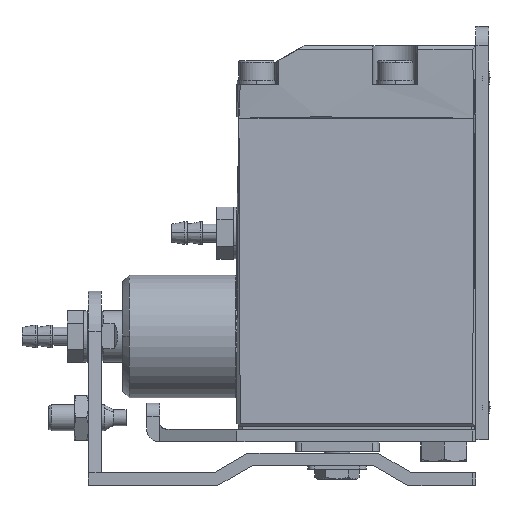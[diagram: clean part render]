
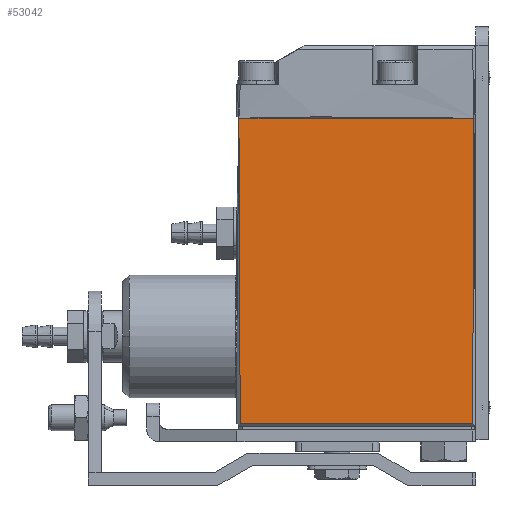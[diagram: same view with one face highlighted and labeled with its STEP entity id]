
A CAD part, left-side view. The second image highlights one B-rep face of the part: STEP entity #53042.
In plain terms, the highlighted planar face has unit normal (-1, 0, 0).
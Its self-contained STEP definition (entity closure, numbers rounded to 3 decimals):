
#1415 = FACE_OUTER_BOUND ( 'NONE', #18026, .T. ) ;
#5184 = DIRECTION ( 'NONE',  ( 0., 0., -1. ) ) ;
#9457 = DIRECTION ( 'NONE',  ( -1., 0., 0. ) ) ;
#10090 = CARTESIAN_POINT ( 'NONE',  ( 0., 18.5, 47.5 ) ) ;
#11684 = AXIS2_PLACEMENT_3D ( 'NONE', #34744, #9457, #38925 ) ;
#13582 = CARTESIAN_POINT ( 'NONE',  ( 0., 36.5, 24. ) ) ;
#16252 = VERTEX_POINT ( 'NONE', #16300 ) ;
#16300 = CARTESIAN_POINT ( 'NONE',  ( 0., 36.5, 0.5 ) ) ;
#18026 = EDGE_LOOP ( 'NONE', ( #54207, #21034, #33627, #19812 ) ) ;
#19812 = ORIENTED_EDGE ( 'NONE', *, *, #44784, .F. ) ;
#20454 = VECTOR ( 'NONE', #43677, 1000. ) ;
#20725 = CARTESIAN_POINT ( 'NONE',  ( 0.255, 36.7, 47.8 ) ) ;
#21034 = ORIENTED_EDGE ( 'NONE', *, *, #27695, .T. ) ;
#21276 = EDGE_CURVE ( 'NONE', #47948, #48793, #29797, .T. ) ;
#21534 = CARTESIAN_POINT ( 'NONE',  ( 0., 0.5, 0.5 ) ) ;
#22415 = VERTEX_POINT ( 'NONE', #20725 ) ;
#22512 = CARTESIAN_POINT ( 'NONE',  ( 0., 0.5, 24. ) ) ;
#27695 = EDGE_CURVE ( 'NONE', #48793, #22415, #42633, .T. ) ;
#29797 = LINE ( 'NONE', #22512, #39581 ) ;
#30238 = LINE ( 'NONE', #45443, #51080 ) ;
#33627 = ORIENTED_EDGE ( 'NONE', *, *, #41757, .T. ) ;
#34744 = CARTESIAN_POINT ( 'NONE',  ( 0., -3.1, -4.2 ) ) ;
#38925 = DIRECTION ( 'NONE',  ( 0., 0., 1. ) ) ;
#39581 = VECTOR ( 'NONE', #51711, 1000. ) ;
#39723 = LINE ( 'NONE', #13582, #49520 ) ;
#41757 = EDGE_CURVE ( 'NONE', #22415, #16252, #39723, .T. ) ;
#42633 = LINE ( 'NONE', #10090, #20454 ) ;
#43677 = DIRECTION ( 'NONE',  ( 0., 1., 0. ) ) ;
#44784 = EDGE_CURVE ( 'NONE', #47948, #16252, #30238, .T. ) ;
#44989 = CARTESIAN_POINT ( 'NONE',  ( 0.255, 0.3, 47.8 ) ) ;
#45443 = CARTESIAN_POINT ( 'NONE',  ( 0., 18.5, 0.5 ) ) ;
#47948 = VERTEX_POINT ( 'NONE', #21534 ) ;
#48793 = VERTEX_POINT ( 'NONE', #44989 ) ;
#49520 = VECTOR ( 'NONE', #5184, 1000. ) ;
#49680 = DIRECTION ( 'NONE',  ( 0., 1., 0. ) ) ;
#51080 = VECTOR ( 'NONE', #49680, 1000. ) ;
#51085 = PLANE ( 'NONE',  #11684 ) ;
#51711 = DIRECTION ( 'NONE',  ( 0., 0., 1. ) ) ;
#53042 = ADVANCED_FACE ( 'NONE', ( #1415 ), #51085, .T. ) ;
#54207 = ORIENTED_EDGE ( 'NONE', *, *, #21276, .T. ) ;
